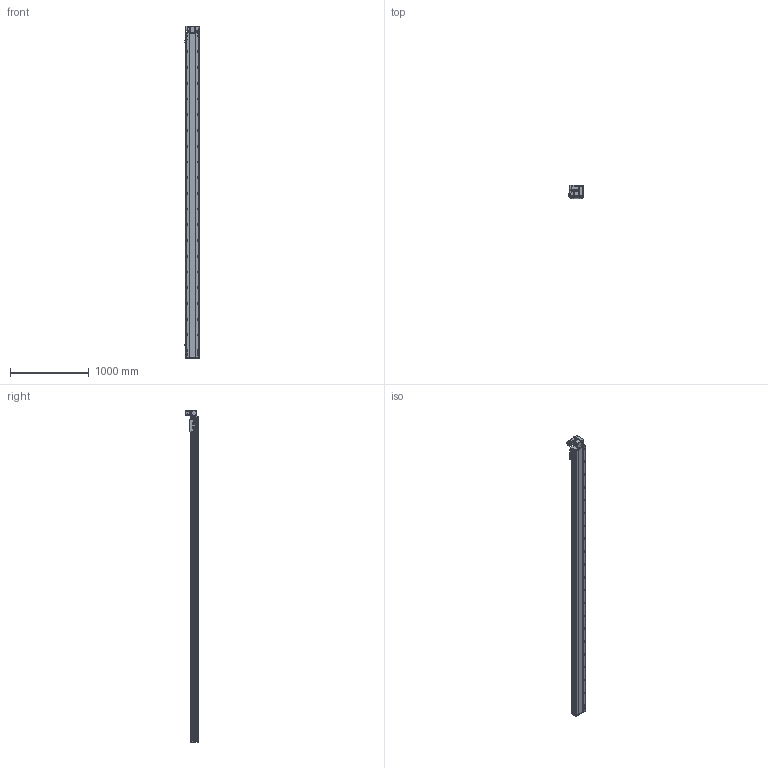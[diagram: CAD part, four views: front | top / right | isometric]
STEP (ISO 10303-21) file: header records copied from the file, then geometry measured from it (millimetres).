
FILE_DESCRIPTION (( 'STEP AP214' ), '1' );
FILE_NAME ('RTB17S-XX-3850-RW-M40-C4.STEP', '2025-12-11T09:24:13', ( '' ), ( '' ), 'SwSTEP 2.0', 'SolidWorks 2018', '' );
FILE_SCHEMA (( 'AUTOMOTIVE_DESIGN' ));
Length unit declared in the file: millimetre
Products named in the file (14): RTB17-R-011菁釱^RTB17S-XX-XX-RW-M40-C4; RTB17S-L-001耜醱啣^RTB17S-XX-XX-RW-M40-C4; RTH13-BL-012覜茼え俋离^RTB17S-XX-XX-RW-M40-C4; RTB17S-L-004佪裝蹟譫蟀諉釱^RTB17S-XX-XX-RW-M40-C4; 400W侜督萇儂^RTB17S-XX-XX-RW-M40-C4; OMRON EE-SX672 传感器^RTB17S-XX-XX-RW-M40-C4; RTB17S-RW-々湍釱蚾饜-400W^RTB17S-XX-XX-RW-M40-C4; RTB14-L-017P^RTB17S-RW-々湍釱蚾饜-400W_RTB17S-XX-XX-RW-M40-C4; RTB14-L-018P^RTB17S-RW-々湍釱蚾饜-400W_RTB17S-XX-XX-RW-M40-C4; RTB17S-L-007奻裔^RTB17S-XX-XX-RW-M40-C4; RTB14-L-008-M20--萇儂啣^RTB17S-RW-々湍釱蚾饜-400W_RTB17S-XX-XX-RW-M40-C4; RTB17S-XX-3850-RW-M40-C4; RTB14-L-005P--轴承塑胶压盖^RTB17S-RW-皮带座装配-400W_RTB17S-XX-XX-RW-M40-C4; RMP17S-L-014-T20--々湍釱^RTB17S-RW-々湍釱蚾饜-400W_RTB17S-XX-XX-RW-M40-C4
Assembly tree (16 placements, depth 3):
  RTB17S-XX-3850-RW-M40-C4
    RTB17-R-011菁釱^RTB17S-XX-XX-RW-M40-C4
    RTB17S-L-007奻裔^RTB17S-XX-XX-RW-M40-C4
    OMRON EE-SX672 传感器^RTB17S-XX-XX-RW-M40-C4  x3
    RTB17S-L-001耜醱啣^RTB17S-XX-XX-RW-M40-C4
    400W侜督萇儂^RTB17S-XX-XX-RW-M40-C4
    RTB17S-L-004佪裝蹟譫蟀諉釱^RTB17S-XX-XX-RW-M40-C4
    RTH13-BL-012覜茼え俋离^RTB17S-XX-XX-RW-M40-C4
    RTB17S-RW-々湍釱蚾饜-400W^RTB17S-XX-XX-RW-M40-C4
      RMP17S-L-014-T20--々湍釱^RTB17S-RW-々湍釱蚾饜-400W_RTB17S-XX-XX-RW-M40-C4
      RTB14-L-005P--轴承塑胶压盖^RTB17S-RW-皮带座装配-400W_RTB17S-XX-XX-RW-M40-C4
      RTB14-L-008-M20--萇儂啣^RTB17S-RW-々湍釱蚾饜-400W_RTB17S-XX-XX-RW-M40-C4
      RTB14-L-017P^RTB17S-RW-々湍釱蚾饜-400W_RTB17S-XX-XX-RW-M40-C4  x2
      RTB14-L-018P^RTB17S-RW-々湍釱蚾饜-400W_RTB17S-XX-XX-RW-M40-C4
Bounding box: 183.5 x 160.5 x 4222.5 mm (x, y, z)
Volume: 35610601.2 mm3; surface area: 4034343.9 mm2
Topology: 15 solids, 15 shells, 2445 faces, 6897 edges, 4509 vertices
Faces by surface type: plane 1098, cylinder 899, bspline 301, cone 139, torus 8
Entity records: 74153 total; most frequent: CARTESIAN_POINT 21302, ORIENTED_EDGE 10638, DIRECTION 9746, EDGE_CURVE 5319, VERTEX_POINT 3497, AXIS2_PLACEMENT_3D 3427, VECTOR 2892, LINE 2892
